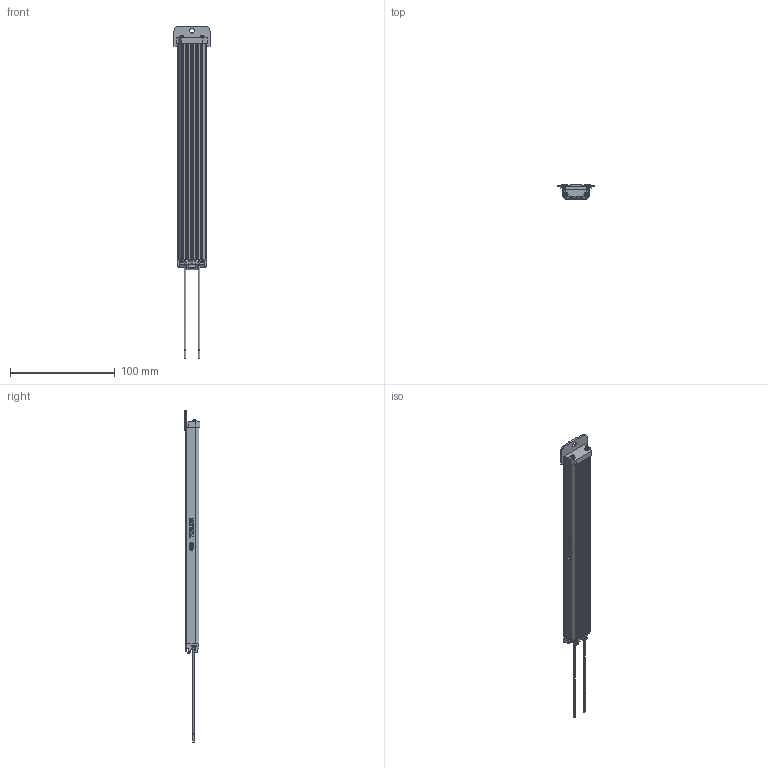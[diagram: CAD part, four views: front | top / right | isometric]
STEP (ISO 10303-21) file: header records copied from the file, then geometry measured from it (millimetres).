
FILE_DESCRIPTION(('CAx-IF Rec.Pracs.---Model Styling and Organization---1.2---2011-12-15','CAx-IF Rec.Pracs.---Geometric and Assembly Validation Properties---4.1---2014-06-16','CAx-IF Rec.Pracs.---PMI Polyline Presentation---2.0---2013-05-24'),'2;1');
FILE_NAME('020Y50LY0E.stp','2018-11-13T07:33:07+01:00',(''),(''),'STEP Interface 4.2 by CT CoreTechnologie','3D_Evolution4.2 by CT CoreTechnologie','');
FILE_SCHEMA(('AUTOMOTIVE_DESIGN { 1 0 10303 214 1 1 1 1 }'));
Length unit declared in the file: millimetre
Products named in the file (9): 020-50L-0E; 020-50J-03; 01V-N5S-02; 01Z-M00-05; 020-50K-06; 020-50C-08; 01V-Q0F-01; 020-50G-02; 020-50D-06
Assembly tree (12 placements, depth 3):
  020-50L-0E
    020-50J-03
      01V-N5S-02
      01Z-M00-05  x2
    020-50K-06
    020-50C-08
    01V-Q0F-01  x4
    020-50G-02
    020-50D-06
Bounding box: 34.4 x 15.15 x 316.25 mm (x, y, z)
Volume: 39645.8 mm3; surface area: 50506.4 mm2
Topology: 38 solids, 38 shells, 1436 faces, 3758 edges, 2502 vertices
Faces by surface type: plane 1177, cylinder 201, bspline 58
Entity records: 51369 total; most frequent: CARTESIAN_POINT 8773, ORIENTED_EDGE 6766, DIRECTION 6189, EDGE_CURVE 3383, VECTOR 3029, LINE 3029, VERTEX_POINT 2249, AXIS2_PLACEMENT_3D 1580
